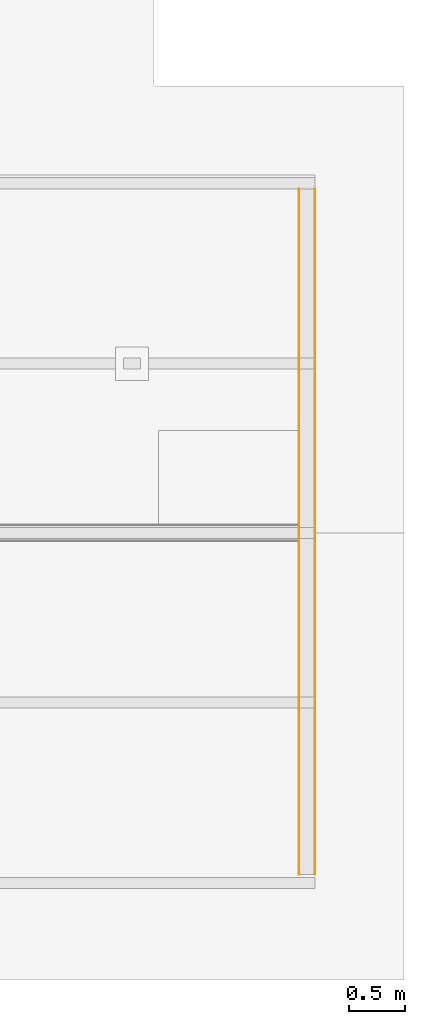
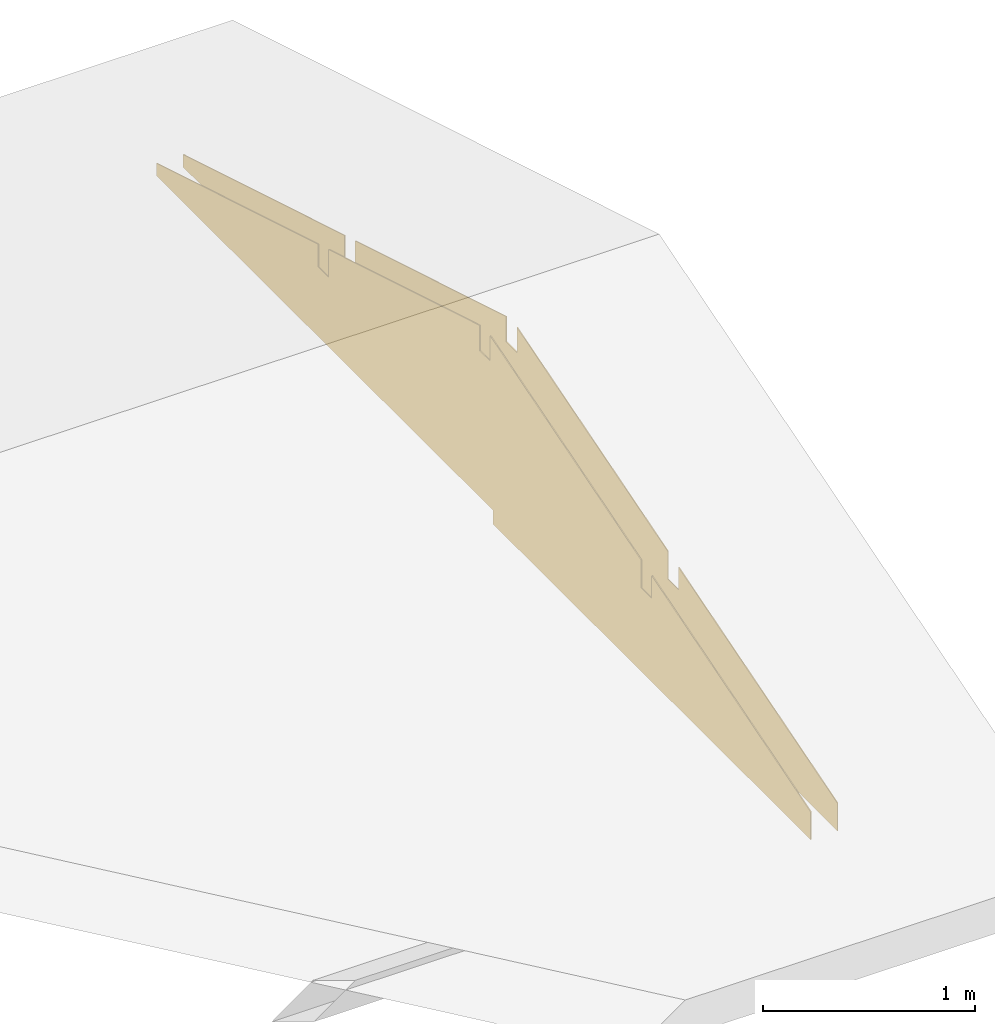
# One storey, part 4 of 4: 2 coverings, 1 element without a shape of its own.
"""IFC2X3 building model written with IfcOpenShell, lengths in millimetres."""

from ifc_helpers import new_model, entity, si_unit, converted_unit, derived_unit, money_unit, direction, frame, origin_with_axes, place, context, subcontext, project, spatial, polyline, outline, extrude, boolean, faceted_brep, material, type_object, element, aggregate, save


model = new_model("IFC2X3")

# Units and contexts
model_context = context("Model", 3, precision=0.01, world=origin_with_axes(), true_north=direction((0.0, 1.0)))
body_context = subcontext(model_context, "Body", "Model", "MODEL_VIEW")
ifc_project = project(units=[si_unit("LENGTHUNIT", "METRE", prefix="MILLI"), si_unit("AREAUNIT", "SQUARE_METRE"), si_unit("VOLUMEUNIT", "CUBIC_METRE"), converted_unit("PLANEANGLEUNIT", "DEGREE", entity("IfcPlaneAngleMeasure", 0.0174532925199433), si_unit("PLANEANGLEUNIT", "RADIAN"), dimensions=[0, 0, 0, 0, 0, 0, 0]), money_unit("USD"), converted_unit("TIMEUNIT", "Year", entity("IfcTimeMeasure", 31557600.0), si_unit("TIMEUNIT", "SECOND"), dimensions=[0, 0, 1, 0, 0, 0, 0]), si_unit("MASSUNIT", "GRAM", prefix="KILO"), si_unit("THERMODYNAMICTEMPERATUREUNIT", "DEGREE_CELSIUS"), si_unit("LUMINOUSINTENSITYUNIT", "LUMEN"), si_unit("ENERGYUNIT", "JOULE", prefix="MEGA"), derived_unit("THERMALCONDUCTANCEUNIT", [(si_unit("POWERUNIT", "WATT"), 1), (si_unit("LENGTHUNIT", "METRE"), -1), (si_unit("THERMODYNAMICTEMPERATUREUNIT", "KELVIN"), -1)]), derived_unit("SPECIFICHEATCAPACITYUNIT", [(si_unit("ENERGYUNIT", "JOULE"), 1), (si_unit("MASSUNIT", "GRAM", prefix="KILO"), -1), (si_unit("THERMODYNAMICTEMPERATUREUNIT", "KELVIN"), -1)]), derived_unit("MASSDENSITYUNIT", [(si_unit("MASSUNIT", "GRAM", prefix="KILO"), 1), (si_unit("VOLUMEUNIT", "CUBIC_METRE"), -1)])], contexts=[model_context])

# Site, building, storey
site_placement = place(None, origin_with_axes())
site = spatial("IfcSite", under=ifc_project, at=site_placement, Name="Local", CompositionType="ELEMENT")
building_placement = place(site_placement, origin_with_axes())
building = spatial("IfcBuilding", under=site, at=building_placement, Name="Construção", CompositionType="ELEMENT")
storey_placement = place(building_placement, frame((0.0, 0.0, 2500.0), z_axis=(0.0, 0.0, 1.0), x_axis=(1.0, 0.0, 0.0)))
storey = spatial("IfcBuildingStorey", under=building, at=storey_placement, Name="Cobertura", CompositionType="ELEMENT", Elevation=2500.0)

# Wall, coverings
wall_type = type_object("IfcWallType", Name="Alvenaria 140, Rebocada 2 Faces 150", PredefinedType="NOTDEFINED")
wall_placement = place(storey_placement, frame((6449.999999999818, 150.0000000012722, 0.0), z_axis=(0.0, 0.0, 1.0), x_axis=(0.0, 1.0, 0.0)))
wall = element("IfcWall", 1, at=wall_placement, inside=storey, type_object=wall_type, Name="Parede-10")
ifc_material = material(Name="Reboco DEF")
covering_1_placement = place(wall_placement, origin_with_axes())
covering_1 = element("IfcCovering", 2, at=covering_1_placement, material=ifc_material, Name="Reboco DEF", PredefinedType="CLADDING", context=body_context, shape_type="CSG", body=[
    boolean("DIFFERENCE", boolean("DIFFERENCE", boolean("DIFFERENCE", boolean("DIFFERENCE", boolean("DIFFERENCE", boolean("DIFFERENCE", extrude(outline(polyline([(0.0, 0.0), (6175.000000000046, 0.0), (6175.000000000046, 4.999999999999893), (0.0, 4.999999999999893), (0.0, 0.0)])), origin_with_axes(), (0.0, 0.0, 1.0), 1176.306130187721), faceted_brep([(6175.000000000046, 4.999999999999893, 80.00000000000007), (6175.000000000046, 0.0, 80.00000000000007), (6175.000000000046, 0.0, 0.0), (6175.000000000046, 4.999999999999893, 0.0), (2999.999999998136, 0.0, 80.00000000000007), (2999.999999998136, 4.999999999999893, 80.00000000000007), (2999.999999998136, 0.0, 0.0), (2999.999999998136, 4.999999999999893, 0.0)], [[[0, 1, 2, 3]], [[4, 1, 0, 5]], [[4, 6, 2, 1]], [[6, 7, 3, 2]], [[5, 0, 3, 7]], [[6, 4, 5, 7]]])), faceted_brep([(4650.000000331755, 0.0, 480.4517407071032), (4650.000000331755, 0.0, 610.4517409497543), (6175.000000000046, 0.0, 152.9517410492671), (6175.000000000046, 0.0, 1176.306130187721), (0.0, 0.0, 1176.306130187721), (0.0, 0.0, 160.451740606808), (1500.000000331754, 0.0, 610.4517407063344), (1500.000000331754, 0.0, 480.4517406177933), (1600.000000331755, 0.0, 480.4517406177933), (1600.000000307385, 0.0, 640.4517406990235), (3025.000000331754, 0.0, 1067.951740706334), (3025.000000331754, 0.0, 922.9517406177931), (3125.000000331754, 0.0, 922.9517406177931), (3125.000000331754, 0.0, 1067.951740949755), (4550.000000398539, 0.0, 640.451740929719), (4550.000000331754, 0.0, 480.4517407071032), (4650.000000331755, 4.999999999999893, 480.4517407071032), (4650.000000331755, 4.999999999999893, 610.4517409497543), (6175.000000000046, 4.999999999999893, 152.9517410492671), (6175.000000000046, 4.999999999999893, 1176.306130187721), (0.0, 4.999999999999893, 1176.306130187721), (0.0, 4.999999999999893, 160.451740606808), (1500.000000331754, 4.999999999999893, 610.4517407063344), (1500.000000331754, 4.999999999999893, 480.4517406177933), (1600.000000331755, 4.999999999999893, 480.4517406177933), (1600.000000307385, 4.999999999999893, 640.4517406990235), (3025.000000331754, 4.999999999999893, 1067.951740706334), (3025.000000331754, 4.999999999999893, 922.9517406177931), (3125.000000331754, 4.999999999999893, 922.9517406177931), (3125.000000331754, 4.999999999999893, 1067.951740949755), (4550.000000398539, 4.999999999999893, 640.451740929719), (4550.000000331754, 4.999999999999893, 480.4517407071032)], [[[0, 1, 2, 3, 4, 5, 6, 7, 8, 9, 10, 11, 12, 13, 14, 15]], [[1, 0, 16, 17]], [[18, 2, 1, 17]], [[2, 18, 19, 3]], [[20, 4, 3, 19]], [[21, 5, 4, 20]], [[6, 5, 21, 22]], [[7, 6, 22, 23]], [[8, 7, 23, 24]], [[9, 8, 24, 25]], [[10, 9, 25, 26]], [[11, 10, 26, 27]], [[12, 11, 27, 28]], [[13, 12, 28, 29]], [[14, 13, 29, 30]], [[15, 14, 30, 31]], [[0, 15, 31, 16]], [[22, 21, 20, 19, 18, 17, 16, 31, 30, 29, 28, 27, 26, 25, 24, 23]]])), faceted_brep([(6175.000000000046, 144.9999999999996, 80.00000000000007), (6175.000000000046, 4.999999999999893, 80.00000000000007), (6175.000000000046, 4.999999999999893, 0.0), (6175.000000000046, 145.0000000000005, 0.0), (2999.999999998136, 145.0000000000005, 80.00000000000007), (2999.999999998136, 4.999999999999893, 80.00000000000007), (2999.999999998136, 4.999999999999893, 0.0), (2999.999999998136, 144.9999999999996, 0.0)], [[[0, 1, 2, 3]], [[1, 0, 4, 5]], [[5, 6, 2, 1]], [[6, 7, 3, 2]], [[4, 0, 3, 7]], [[7, 6, 5, 4]]])), faceted_brep([(4650.000000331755, 4.999999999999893, 480.4517407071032), (4650.000000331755, 4.999999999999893, 610.4517409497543), (6175.000000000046, 4.999999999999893, 152.9517410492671), (6175.000000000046, 4.999999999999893, 1176.306130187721), (0.0, 4.999999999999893, 1176.306130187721), (0.0, 4.999999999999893, 160.451740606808), (1500.000000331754, 4.999999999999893, 610.4517407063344), (1500.000000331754, 4.999999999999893, 480.4517406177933), (1600.000000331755, 4.999999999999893, 480.4517406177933), (1600.000000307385, 4.999999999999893, 640.4517406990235), (3025.000000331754, 4.999999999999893, 1067.951740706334), (3025.000000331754, 4.999999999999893, 922.9517406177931), (3125.000000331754, 4.999999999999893, 922.9517406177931), (3125.000000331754, 4.999999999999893, 1067.951740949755), (4550.000000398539, 4.999999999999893, 640.451740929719), (4550.000000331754, 4.999999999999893, 480.4517407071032), (4650.000000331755, 145.0000000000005, 480.4517407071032), (4650.000000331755, 145.0000000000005, 610.4517409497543), (6175.000000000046, 144.9999999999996, 152.9517410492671), (6175.000000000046, 145.0000000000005, 1176.306130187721), (0.0, 145.0000000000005, 1176.306130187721), (0.0, 144.9999999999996, 160.451740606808), (1500.000000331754, 145.0000000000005, 610.4517407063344), (1500.000000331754, 145.0000000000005, 480.4517406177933), (1600.000000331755, 145.0000000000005, 480.4517406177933), (1600.000000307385, 145.0000000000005, 640.4517406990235), (3025.000000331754, 145.0000000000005, 1067.951740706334), (3025.000000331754, 145.0000000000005, 922.9517406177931), (3125.000000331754, 145.0000000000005, 922.9517406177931), (3125.000000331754, 145.0000000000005, 1067.951740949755), (4550.000000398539, 145.0000000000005, 640.451740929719), (4550.000000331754, 145.0000000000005, 480.4517407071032)], [[[0, 1, 2, 3, 4, 5, 6, 7, 8, 9, 10, 11, 12, 13, 14, 15]], [[0, 16, 17, 1]], [[18, 2, 1, 17]], [[2, 18, 19, 3]], [[20, 4, 3, 19]], [[21, 5, 4, 20]], [[6, 5, 21, 22]], [[23, 7, 6, 22]], [[24, 8, 7, 23]], [[8, 24, 25, 9]], [[10, 9, 25, 26]], [[27, 11, 10, 26]], [[28, 12, 11, 27]], [[12, 28, 29, 13]], [[14, 13, 29, 30]], [[31, 15, 14, 30]], [[16, 0, 15, 31]], [[22, 21, 20, 19, 18, 17, 16, 31, 30, 29, 28, 27, 26, 25, 24, 23]]])), faceted_brep([(6175.000000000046, 150.0000000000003, 80.00000000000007), (6175.000000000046, 144.9999999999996, 80.00000000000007), (6175.000000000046, 145.0000000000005, 0.0), (6175.000000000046, 150.0000000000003, 0.0), (2999.999999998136, 150.0000000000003, 80.00000000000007), (2999.999999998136, 145.0000000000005, 80.00000000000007), (2999.999999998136, 144.9999999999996, 0.0), (2999.999999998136, 150.0000000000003, 0.0)], [[[0, 1, 2, 3]], [[1, 0, 4, 5]], [[5, 6, 2, 1]], [[6, 7, 3, 2]], [[4, 0, 3, 7]], [[7, 6, 5, 4]]])), faceted_brep([(4650.000000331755, 145.0000000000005, 480.4517407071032), (4650.000000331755, 145.0000000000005, 610.4517409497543), (6175.000000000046, 144.9999999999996, 152.9517410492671), (6175.000000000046, 145.0000000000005, 1176.306130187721), (0.0, 145.0000000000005, 1176.306130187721), (0.0, 144.9999999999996, 160.451740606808), (1500.000000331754, 145.0000000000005, 610.4517407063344), (1500.000000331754, 145.0000000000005, 480.4517406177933), (1600.000000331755, 145.0000000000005, 480.4517406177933), (1600.000000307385, 145.0000000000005, 640.4517406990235), (3025.000000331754, 145.0000000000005, 1067.951740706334), (3025.000000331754, 145.0000000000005, 922.9517406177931), (3125.000000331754, 145.0000000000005, 922.9517406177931), (3125.000000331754, 145.0000000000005, 1067.951740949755), (4550.000000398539, 145.0000000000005, 640.451740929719), (4550.000000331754, 145.0000000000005, 480.4517407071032), (4650.000000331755, 150.0000000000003, 480.4517407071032), (4650.000000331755, 150.0000000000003, 610.4517409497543), (6175.000000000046, 150.0000000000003, 152.9517410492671), (6175.000000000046, 150.0000000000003, 1176.306130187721), (0.0, 150.0000000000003, 1176.306130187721), (0.0, 150.0000000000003, 160.451740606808), (1500.000000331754, 150.0000000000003, 610.4517407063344), (1500.000000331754, 150.0000000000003, 480.4517406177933), (1600.000000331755, 150.0000000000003, 480.4517406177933), (1600.000000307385, 150.0000000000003, 640.4517406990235), (3025.000000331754, 150.0000000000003, 1067.951740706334), (3025.000000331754, 150.0000000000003, 922.9517406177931), (3125.000000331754, 150.0000000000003, 922.9517406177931), (3125.000000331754, 150.0000000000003, 1067.951740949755), (4550.000000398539, 150.0000000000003, 640.451740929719), (4550.000000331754, 150.0000000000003, 480.4517407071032)], [[[0, 1, 2, 3, 4, 5, 6, 7, 8, 9, 10, 11, 12, 13, 14, 15]], [[16, 17, 1, 0]], [[18, 2, 1, 17]], [[2, 18, 19, 3]], [[20, 4, 3, 19]], [[21, 5, 4, 20]], [[6, 5, 21, 22]], [[22, 23, 7, 6]], [[23, 24, 8, 7]], [[24, 25, 9, 8]], [[10, 9, 25, 26]], [[26, 27, 11, 10]], [[27, 28, 12, 11]], [[28, 29, 13, 12]], [[14, 13, 29, 30]], [[30, 31, 15, 14]], [[31, 16, 0, 15]], [[22, 21, 20, 19, 18, 17, 16, 31, 30, 29, 28, 27, 26, 25, 24, 23]]])),
])
covering_2_placement = place(wall_placement, origin_with_axes())
covering_2 = element("IfcCovering", 3, at=covering_2_placement, material=ifc_material, Name="Reboco DEF", PredefinedType="CLADDING", context=body_context, shape_type="CSG", body=[
    boolean("DIFFERENCE", boolean("DIFFERENCE", boolean("DIFFERENCE", boolean("DIFFERENCE", boolean("DIFFERENCE", boolean("DIFFERENCE", extrude(outline(polyline([(0.0, 145.0000000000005), (6175.000000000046, 145.0000000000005), (6175.000000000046, 150.0000000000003), (0.0, 150.0000000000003), (0.0, 145.0000000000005)])), origin_with_axes(), (0.0, 0.0, 1.0), 1176.306130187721), faceted_brep([(6175.000000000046, 4.999999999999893, 80.00000000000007), (6175.000000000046, 0.0, 80.00000000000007), (6175.000000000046, 0.0, 0.0), (6175.000000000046, 4.999999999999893, 0.0), (2999.999999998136, 0.0, 80.00000000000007), (2999.999999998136, 4.999999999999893, 80.00000000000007), (2999.999999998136, 0.0, 0.0), (2999.999999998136, 4.999999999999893, 0.0)], [[[0, 1, 2, 3]], [[4, 1, 0, 5]], [[4, 6, 2, 1]], [[6, 7, 3, 2]], [[5, 0, 3, 7]], [[6, 4, 5, 7]]])), faceted_brep([(4650.000000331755, 0.0, 480.4517407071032), (4650.000000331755, 0.0, 610.4517409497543), (6175.000000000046, 0.0, 152.9517410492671), (6175.000000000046, 0.0, 1176.306130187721), (0.0, 0.0, 1176.306130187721), (0.0, 0.0, 160.451740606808), (1500.000000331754, 0.0, 610.4517407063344), (1500.000000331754, 0.0, 480.4517406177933), (1600.000000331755, 0.0, 480.4517406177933), (1600.000000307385, 0.0, 640.4517406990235), (3025.000000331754, 0.0, 1067.951740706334), (3025.000000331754, 0.0, 922.9517406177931), (3125.000000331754, 0.0, 922.9517406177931), (3125.000000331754, 0.0, 1067.951740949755), (4550.000000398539, 0.0, 640.451740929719), (4550.000000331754, 0.0, 480.4517407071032), (4650.000000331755, 4.999999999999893, 480.4517407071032), (4650.000000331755, 4.999999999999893, 610.4517409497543), (6175.000000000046, 4.999999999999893, 152.9517410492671), (6175.000000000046, 4.999999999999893, 1176.306130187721), (0.0, 4.999999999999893, 1176.306130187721), (0.0, 4.999999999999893, 160.451740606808), (1500.000000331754, 4.999999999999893, 610.4517407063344), (1500.000000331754, 4.999999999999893, 480.4517406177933), (1600.000000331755, 4.999999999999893, 480.4517406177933), (1600.000000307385, 4.999999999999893, 640.4517406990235), (3025.000000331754, 4.999999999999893, 1067.951740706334), (3025.000000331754, 4.999999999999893, 922.9517406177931), (3125.000000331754, 4.999999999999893, 922.9517406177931), (3125.000000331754, 4.999999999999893, 1067.951740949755), (4550.000000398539, 4.999999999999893, 640.451740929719), (4550.000000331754, 4.999999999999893, 480.4517407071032)], [[[0, 1, 2, 3, 4, 5, 6, 7, 8, 9, 10, 11, 12, 13, 14, 15]], [[1, 0, 16, 17]], [[18, 2, 1, 17]], [[2, 18, 19, 3]], [[20, 4, 3, 19]], [[21, 5, 4, 20]], [[6, 5, 21, 22]], [[7, 6, 22, 23]], [[8, 7, 23, 24]], [[9, 8, 24, 25]], [[10, 9, 25, 26]], [[11, 10, 26, 27]], [[12, 11, 27, 28]], [[13, 12, 28, 29]], [[14, 13, 29, 30]], [[15, 14, 30, 31]], [[0, 15, 31, 16]], [[22, 21, 20, 19, 18, 17, 16, 31, 30, 29, 28, 27, 26, 25, 24, 23]]])), faceted_brep([(6175.000000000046, 144.9999999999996, 80.00000000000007), (6175.000000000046, 4.999999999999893, 80.00000000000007), (6175.000000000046, 4.999999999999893, 0.0), (6175.000000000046, 145.0000000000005, 0.0), (2999.999999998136, 145.0000000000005, 80.00000000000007), (2999.999999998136, 4.999999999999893, 80.00000000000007), (2999.999999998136, 4.999999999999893, 0.0), (2999.999999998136, 144.9999999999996, 0.0)], [[[0, 1, 2, 3]], [[1, 0, 4, 5]], [[5, 6, 2, 1]], [[6, 7, 3, 2]], [[4, 0, 3, 7]], [[7, 6, 5, 4]]])), faceted_brep([(4650.000000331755, 4.999999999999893, 480.4517407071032), (4650.000000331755, 4.999999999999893, 610.4517409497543), (6175.000000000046, 4.999999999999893, 152.9517410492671), (6175.000000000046, 4.999999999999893, 1176.306130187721), (0.0, 4.999999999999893, 1176.306130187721), (0.0, 4.999999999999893, 160.451740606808), (1500.000000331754, 4.999999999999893, 610.4517407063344), (1500.000000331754, 4.999999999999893, 480.4517406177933), (1600.000000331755, 4.999999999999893, 480.4517406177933), (1600.000000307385, 4.999999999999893, 640.4517406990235), (3025.000000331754, 4.999999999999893, 1067.951740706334), (3025.000000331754, 4.999999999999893, 922.9517406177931), (3125.000000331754, 4.999999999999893, 922.9517406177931), (3125.000000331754, 4.999999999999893, 1067.951740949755), (4550.000000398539, 4.999999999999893, 640.451740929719), (4550.000000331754, 4.999999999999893, 480.4517407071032), (4650.000000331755, 145.0000000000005, 480.4517407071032), (4650.000000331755, 145.0000000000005, 610.4517409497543), (6175.000000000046, 144.9999999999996, 152.9517410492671), (6175.000000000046, 145.0000000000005, 1176.306130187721), (0.0, 145.0000000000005, 1176.306130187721), (0.0, 144.9999999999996, 160.451740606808), (1500.000000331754, 145.0000000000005, 610.4517407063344), (1500.000000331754, 145.0000000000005, 480.4517406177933), (1600.000000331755, 145.0000000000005, 480.4517406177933), (1600.000000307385, 145.0000000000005, 640.4517406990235), (3025.000000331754, 145.0000000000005, 1067.951740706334), (3025.000000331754, 145.0000000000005, 922.9517406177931), (3125.000000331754, 145.0000000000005, 922.9517406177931), (3125.000000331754, 145.0000000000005, 1067.951740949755), (4550.000000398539, 145.0000000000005, 640.451740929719), (4550.000000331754, 145.0000000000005, 480.4517407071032)], [[[0, 1, 2, 3, 4, 5, 6, 7, 8, 9, 10, 11, 12, 13, 14, 15]], [[0, 16, 17, 1]], [[18, 2, 1, 17]], [[2, 18, 19, 3]], [[20, 4, 3, 19]], [[21, 5, 4, 20]], [[6, 5, 21, 22]], [[23, 7, 6, 22]], [[24, 8, 7, 23]], [[8, 24, 25, 9]], [[10, 9, 25, 26]], [[27, 11, 10, 26]], [[28, 12, 11, 27]], [[12, 28, 29, 13]], [[14, 13, 29, 30]], [[31, 15, 14, 30]], [[16, 0, 15, 31]], [[22, 21, 20, 19, 18, 17, 16, 31, 30, 29, 28, 27, 26, 25, 24, 23]]])), faceted_brep([(6175.000000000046, 150.0000000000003, 80.00000000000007), (6175.000000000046, 144.9999999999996, 80.00000000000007), (6175.000000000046, 145.0000000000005, 0.0), (6175.000000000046, 150.0000000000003, 0.0), (2999.999999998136, 150.0000000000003, 80.00000000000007), (2999.999999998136, 145.0000000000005, 80.00000000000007), (2999.999999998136, 144.9999999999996, 0.0), (2999.999999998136, 150.0000000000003, 0.0)], [[[0, 1, 2, 3]], [[1, 0, 4, 5]], [[5, 6, 2, 1]], [[6, 7, 3, 2]], [[4, 0, 3, 7]], [[7, 6, 5, 4]]])), faceted_brep([(4650.000000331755, 145.0000000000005, 480.4517407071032), (4650.000000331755, 145.0000000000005, 610.4517409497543), (6175.000000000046, 144.9999999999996, 152.9517410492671), (6175.000000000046, 145.0000000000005, 1176.306130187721), (0.0, 145.0000000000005, 1176.306130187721), (0.0, 144.9999999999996, 160.451740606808), (1500.000000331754, 145.0000000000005, 610.4517407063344), (1500.000000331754, 145.0000000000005, 480.4517406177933), (1600.000000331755, 145.0000000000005, 480.4517406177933), (1600.000000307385, 145.0000000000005, 640.4517406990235), (3025.000000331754, 145.0000000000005, 1067.951740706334), (3025.000000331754, 145.0000000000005, 922.9517406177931), (3125.000000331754, 145.0000000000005, 922.9517406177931), (3125.000000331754, 145.0000000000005, 1067.951740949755), (4550.000000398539, 145.0000000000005, 640.451740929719), (4550.000000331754, 145.0000000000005, 480.4517407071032), (4650.000000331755, 150.0000000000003, 480.4517407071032), (4650.000000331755, 150.0000000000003, 610.4517409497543), (6175.000000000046, 150.0000000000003, 152.9517410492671), (6175.000000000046, 150.0000000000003, 1176.306130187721), (0.0, 150.0000000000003, 1176.306130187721), (0.0, 150.0000000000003, 160.451740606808), (1500.000000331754, 150.0000000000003, 610.4517407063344), (1500.000000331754, 150.0000000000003, 480.4517406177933), (1600.000000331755, 150.0000000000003, 480.4517406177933), (1600.000000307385, 150.0000000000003, 640.4517406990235), (3025.000000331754, 150.0000000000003, 1067.951740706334), (3025.000000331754, 150.0000000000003, 922.9517406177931), (3125.000000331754, 150.0000000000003, 922.9517406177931), (3125.000000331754, 150.0000000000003, 1067.951740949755), (4550.000000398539, 150.0000000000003, 640.451740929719), (4550.000000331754, 150.0000000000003, 480.4517407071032)], [[[0, 1, 2, 3, 4, 5, 6, 7, 8, 9, 10, 11, 12, 13, 14, 15]], [[16, 17, 1, 0]], [[18, 2, 1, 17]], [[2, 18, 19, 3]], [[20, 4, 3, 19]], [[21, 5, 4, 20]], [[6, 5, 21, 22]], [[22, 23, 7, 6]], [[23, 24, 8, 7]], [[24, 25, 9, 8]], [[10, 9, 25, 26]], [[26, 27, 11, 10]], [[27, 28, 12, 11]], [[28, 29, 13, 12]], [[14, 13, 29, 30]], [[30, 31, 15, 14]], [[31, 16, 0, 15]], [[22, 21, 20, 19, 18, 17, 16, 31, 30, 29, 28, 27, 26, 25, 24, 23]]])),
])
aggregate(wall, [covering_1, covering_2])

save(model, "model.ifc")
